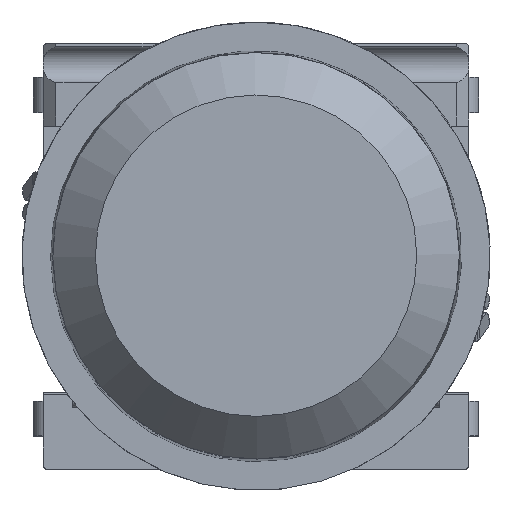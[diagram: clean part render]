
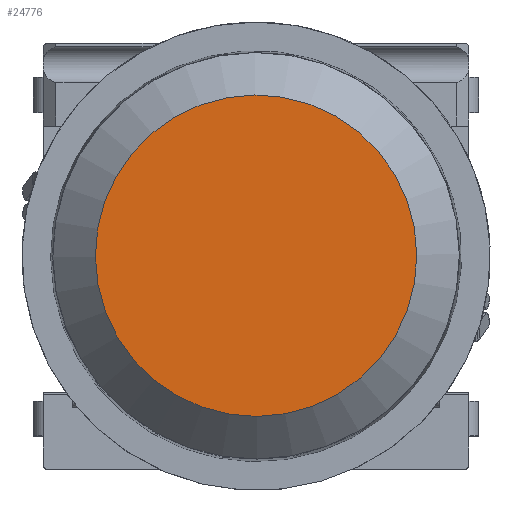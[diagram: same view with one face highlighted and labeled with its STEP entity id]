
A CAD part, top view. The second image highlights one B-rep face of the part: STEP entity #24776.
In plain terms, the highlighted planar face has unit normal (0, 0, 1).
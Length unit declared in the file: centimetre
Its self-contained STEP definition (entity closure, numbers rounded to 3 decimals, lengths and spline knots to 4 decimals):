
#1360=FACE_OUTER_BOUND($,#2657,.T.);
#2657=EDGE_LOOP($,(#15930));
#8717=CIRCLE($,#26148,0.3775);
#9486=VERTEX_POINT($,#36558);
#11989=EDGE_CURVE($,#9486,#9486,#8717,.T.);
#15930=ORIENTED_EDGE($,*,*,#11989,.T.);
#22559=PLANE($,#26147);
#24776=ADVANCED_FACE($,(#1360),#22559,.T.);
#26147=AXIS2_PLACEMENT_3D($,#36557,#28316,#28317);
#26148=AXIS2_PLACEMENT_3D($,#36559,#28318,#28319);
#28316=DIRECTION('center_axis',(0.,0.,
1.));
#28317=DIRECTION('ref_axis',(1.,0.007,0.));
#28318=DIRECTION('center_axis',(0.,0.,
1.));
#28319=DIRECTION('ref_axis',(-1.,-0.007,0.));
#36557=CARTESIAN_POINT('Origin',(-0.1887,-0.0013,
1.506));
#36558=CARTESIAN_POINT('',(-0.3775,-0.0026,1.506));
#36559=CARTESIAN_POINT('Origin',(0.,0.,
1.506));
